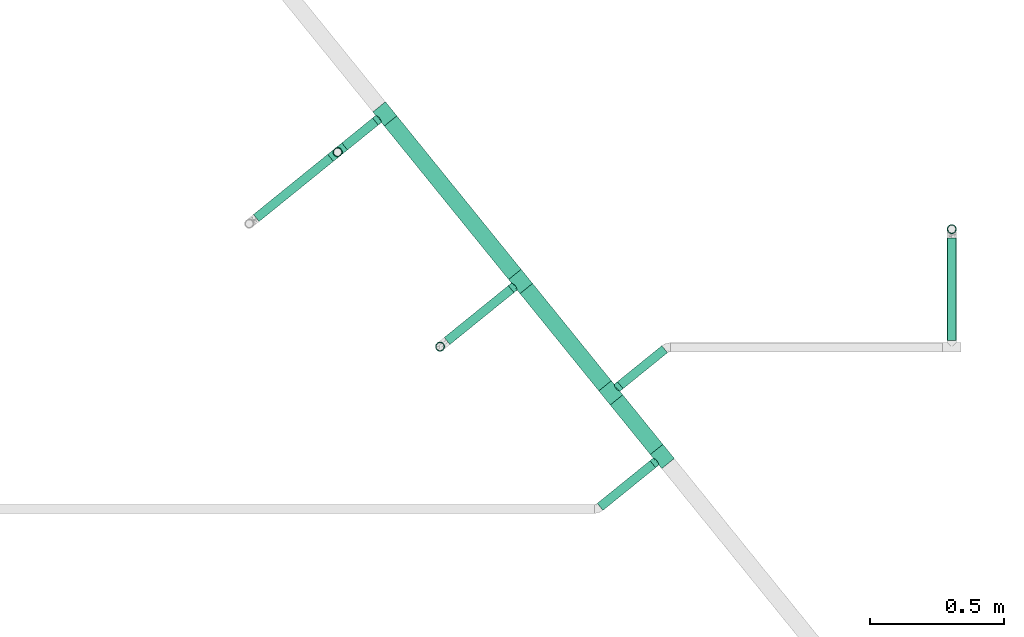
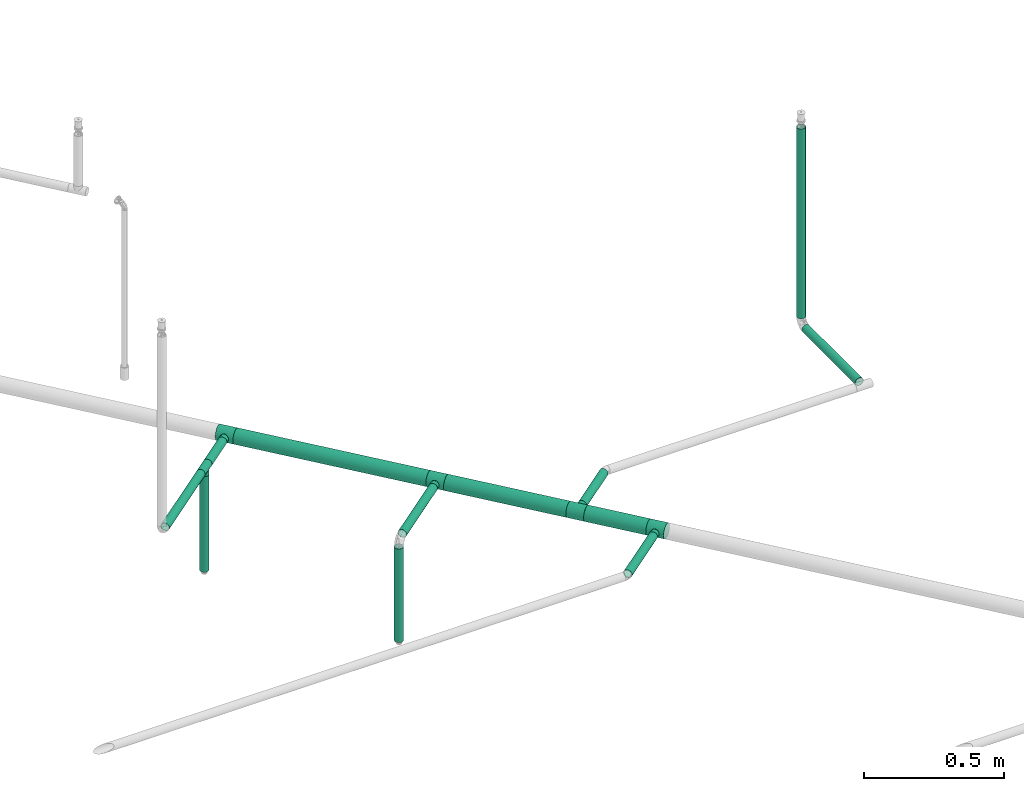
# One storey, part 16 of 94: 12 flow segments, 5 flow fittings.
"""IFC2X3 building model written with IfcOpenShell, lengths in millimetres."""

from ifc_helpers import new_model, entity, si_unit, converted_unit, derived_unit, direction, frame, origin_with_axes, origin_2d_with_axis, place, context, subcontext, project, spatial, hollow_circle, extrude, open_shell, surface_model, source, transform, mapped, type_object, element, save


model = new_model("IFC2X3")

# Units and contexts
model_context = context("Model", 3, precision=0.01, world=frame((0.0, 4.29681676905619e-09, 0.0)), true_north=direction((4.01073788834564e-13, 1.0)))
plan_context = context("Plan", 3, precision=0.01, world=frame((0.0, 4.29681676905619e-09, 0.0)), true_north=direction((4.01073788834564e-13, 1.0)))
body_context = subcontext(model_context, "Body", "Model", "MODEL_VIEW")
ifc_project = project(units=[converted_unit("PLANEANGLEUNIT", "DEGREE", entity("IfcPositiveLengthMeasure", 0.0174532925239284), si_unit("PLANEANGLEUNIT", "RADIAN"), dimensions=[0, 0, 0, 0, 0, 0, 0]), si_unit("AREAUNIT", "SQUARE_METRE"), si_unit("LENGTHUNIT", "METRE", prefix="MILLI"), si_unit("MASSUNIT", "GRAM", prefix="KILO"), si_unit("POWERUNIT", "WATT"), si_unit("PRESSUREUNIT", "PASCAL", prefix="KILO"), si_unit("FORCEUNIT", "NEWTON", prefix="KILO"), si_unit("ELECTRICVOLTAGEUNIT", "VOLT"), si_unit("ELECTRICCURRENTUNIT", "AMPERE"), si_unit("THERMODYNAMICTEMPERATUREUNIT", "DEGREE_CELSIUS"), si_unit("TIMEUNIT", "SECOND"), si_unit("VOLUMEUNIT", "CUBIC_METRE"), derived_unit("LINEARVELOCITYUNIT", [(si_unit("LENGTHUNIT", "METRE"), 1), (si_unit("TIMEUNIT", "SECOND"), -1)]), derived_unit("VOLUMETRICFLOWRATEUNIT", [(si_unit("VOLUMEUNIT", "CUBIC_METRE"), 1), (si_unit("TIMEUNIT", "SECOND"), -1)]), derived_unit("THERMALTRANSMITTANCEUNIT", [(si_unit("POWERUNIT", "WATT"), 1), (si_unit("THERMODYNAMICTEMPERATUREUNIT", "KELVIN"), -1), (si_unit("AREAUNIT", "SQUARE_METRE"), -1)]), derived_unit("SOUNDPRESSUREUNIT", [(si_unit("PRESSUREUNIT", "PASCAL"), 1)])], contexts=[model_context, plan_context])

# Site, building, storey
site_placement = place(None, frame((0.0, -4.29681676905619e-09, 0.0), z_axis=(0.0, 0.0, 1.0), x_axis=(1.0, 0.0, 0.0)))
site = spatial("IfcSite", under=ifc_project, at=site_placement, CompositionType="ELEMENT")
building_placement = place(site_placement, frame((0.0, 4.29681676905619e-09, 0.0), z_axis=(0.0, 0.0, 1.0), x_axis=(1.0, 0.0, 0.0)))
building = spatial("IfcBuilding", under=site, at=building_placement, Name="mc-building", CompositionType="ELEMENT")
storey_placement = place(building_placement, frame((0.0, 0.0, 210900.0), z_axis=(0.0, 0.0, 1.0), x_axis=(1.0, 0.0, 0.0)))
storey = spatial("IfcBuildingStorey", under=building, at=storey_placement, Name="Nivå F", CompositionType="ELEMENT", Elevation=210900.0)

# Flow fittings
pipe_fitting_type = type_object("IfcPipeFittingType", Name="magi_pipe_fe_tee_centric_90_NOR", PredefinedType="JUNCTION")
shared_shape_1 = source(origin_with_axes(), body_context, "Body", "SurfaceModel", [
    surface_model("IfcShellBasedSurfaceModel", [(-33.8, 4.37404, -16.32415), (-33.8, 0.0, -16.9), (-33.8, 16.32415, -4.37404), (-33.8, 8.45, -14.63583), (-33.8, 11.9501, -11.9501), (-33.8, 14.63583, -8.45), (-33.8, -16.9, 0.0), (-33.8, -11.9501, -11.9501), (-33.8, -14.63583, -8.45), (-33.8, -8.45, -14.63583), (-33.8, -4.37404, -16.32415), (-33.8, -16.32415, -4.37404), (-33.8, 14.63583, 8.45), (-33.8, 16.32415, 4.37404), (-33.8, -8.45, 14.63583), (-33.8, 8.45, 14.63583), (-33.8, 11.9501, 11.9501), (-33.8, 4.37404, 16.32415), (-33.8, 0.0, 16.9), (-33.8, -11.9501, 11.9501), (-33.8, -14.63583, 8.45), (-33.8, -16.32415, 4.37404), (-33.8, -4.37404, 16.32415), (-33.8, 16.9, 0.0), (33.8, 4.37404, -16.32415), (33.8, -16.9, 0.0), (33.8, 0.0, -16.9), (33.8, 14.63583, -8.45), (33.8, 8.45, -14.63583), (33.8, 16.32415, -4.37404), (33.8, 11.9501, -11.9501), (33.8, -16.32415, 4.37404), (33.8, -8.45, -14.63583), (33.8, -4.37404, -16.32415), (33.8, -11.9501, -11.9501), (33.8, -14.63583, -8.45), (33.8, -16.32415, -4.37404), (33.8, 16.32415, 4.37404), (33.8, 8.45, 14.63583), (33.8, 14.63583, 8.45), (33.8, 11.9501, 11.9501), (33.8, -8.45, 14.63583), (33.8, 4.37404, 16.32415), (33.8, -14.63583, 8.45), (33.8, -11.9501, 11.9501), (33.8, 0.0, 16.9), (33.8, -4.37404, 16.32415), (33.8, 16.9, 0.0), (16.28698, -16.28698, 4.51047), (16.9, -16.9, 0.0), (14.62704, -14.62704, 8.4652), (9.47213, -9.47213, 13.99602), (12.26343, -12.26343, 11.62834), (-16.9, -16.9, 0.0), (-16.28698, -16.28698, 4.51047), (-14.62704, -14.62704, 8.4652), (-12.26343, -12.26343, 11.62834), (-9.47213, -9.47213, 13.99602), (-6.42894, -6.42894, 15.62942), (6.42894, -6.42894, 15.62942), (3.24522, -3.24522, 16.58549), (0.0, 0.0, 16.9), (-3.24522, -3.24522, 16.58549), (3.24522, -3.24522, -16.58549), (0.0, 0.0, -16.9), (-3.24522, -3.24522, -16.58549), (-6.42894, -6.42894, -15.62942), (6.42894, -6.42894, -15.62942), (9.47213, -9.47213, -13.99602), (12.26343, -12.26343, -11.62834), (14.62704, -14.62704, -8.4652), (16.28698, -16.28698, -4.51047), (-9.47213, -9.47213, -13.99602), (-12.26343, -12.26343, -11.62834), (-16.28698, -16.28698, -4.51047), (-14.62704, -14.62704, -8.4652), (4.37404, -25.35, -16.32415), (-16.9, -25.35, 0.0), (0.0, -25.35, -16.9), (14.63583, -25.35, -8.45), (8.45, -25.35, -14.63583), (16.32415, -25.35, -4.37404), (11.9501, -25.35, -11.9501), (-11.9501, -25.35, -11.9501), (-8.45, -25.35, -14.63583), (-4.37404, -25.35, -16.32415), (-14.63583, -25.35, -8.45), (-16.32415, -25.35, -4.37404), (16.9, -25.35, 0.0), (8.45, -25.35, 14.63583), (16.32415, -25.35, 4.37404), (14.63583, -25.35, 8.45), (-8.45, -25.35, 14.63583), (11.9501, -25.35, 11.9501), (4.37404, -25.35, 16.32415), (-16.32415, -25.35, 4.37404), (-11.9501, -25.35, 11.9501), (-14.63583, -25.35, 8.45), (0.0, -25.35, 16.9), (-4.37404, -25.35, 16.32415)], [open_shell([[[0, 1, 2]], [[3, 0, 4]], [[0, 2, 5]], [[4, 0, 5]], [[6, 2, 1]], [[7, 8, 9]], [[1, 10, 9]], [[11, 6, 8]], [[1, 9, 8]], [[1, 8, 6]], [[6, 12, 2]], [[12, 13, 2]], [[14, 12, 6]], [[12, 14, 15]], [[16, 12, 15]], [[17, 15, 18]], [[19, 14, 20]], [[21, 20, 14]], [[22, 18, 14]], [[14, 6, 21]], [[14, 18, 15]], [[23, 2, 13]], [[24, 25, 26]], [[27, 24, 28]], [[27, 29, 24]], [[27, 28, 30]], [[31, 25, 24]], [[26, 32, 33]], [[26, 34, 32]], [[35, 25, 36]], [[35, 34, 26]], [[25, 35, 26]], [[24, 29, 31]], [[29, 37, 38]], [[38, 37, 39]], [[38, 31, 29]], [[38, 39, 40]], [[41, 38, 42]], [[43, 41, 44]], [[41, 43, 31]], [[41, 45, 46]], [[41, 31, 38]], [[42, 45, 41]], [[29, 47, 37]], [[31, 43, 48]], [[25, 31, 49]], [[49, 31, 48]], [[43, 50, 48]], [[44, 41, 51]], [[50, 43, 52]], [[51, 52, 44]], [[52, 43, 44]], [[53, 54, 21]], [[53, 21, 6]], [[21, 54, 20]], [[54, 55, 20]], [[56, 57, 19]], [[19, 20, 56]], [[19, 57, 14]], [[56, 20, 55]], [[14, 57, 58]], [[51, 41, 59]], [[60, 45, 61]], [[59, 46, 60]], [[46, 59, 41]], [[60, 46, 45]], [[61, 45, 42]], [[39, 37, 13]], [[16, 38, 40]], [[12, 40, 39]], [[42, 38, 15]], [[23, 37, 47]], [[62, 61, 18]], [[62, 22, 58]], [[22, 62, 18]], [[58, 22, 14]], [[61, 17, 18]], [[42, 17, 61]], [[15, 17, 42]], [[15, 38, 16]], [[12, 16, 40]], [[13, 12, 39]], [[37, 23, 13]], [[5, 27, 30]], [[23, 47, 29]], [[30, 28, 3]], [[27, 2, 29]], [[26, 33, 63]], [[26, 64, 24]], [[64, 26, 63]], [[28, 24, 0]], [[64, 0, 24]], [[4, 30, 3]], [[2, 27, 5]], [[5, 30, 4]], [[2, 23, 29]], [[65, 66, 10]], [[1, 0, 64]], [[1, 65, 10]], [[66, 9, 10]], [[0, 3, 28]], [[1, 64, 65]], [[63, 33, 67]], [[32, 34, 68]], [[69, 68, 34]], [[35, 70, 69]], [[69, 34, 35]], [[32, 68, 67]], [[36, 25, 49]], [[36, 71, 35]], [[71, 36, 49]], [[35, 71, 70]], [[72, 9, 66]], [[72, 7, 9]], [[7, 72, 73]], [[7, 73, 8]], [[74, 53, 11]], [[75, 74, 8]], [[74, 11, 8]], [[11, 53, 6]], [[75, 8, 73]], [[32, 67, 33]], [[76, 77, 78]], [[79, 76, 80]], [[79, 81, 76]], [[79, 80, 82]], [[77, 76, 81]], [[78, 83, 84]], [[84, 85, 78]], [[86, 77, 87]], [[83, 78, 86]], [[77, 86, 78]], [[81, 88, 77]], [[89, 88, 90]], [[89, 90, 91]], [[92, 77, 89]], [[89, 91, 93]], [[92, 89, 94]], [[95, 96, 97]], [[96, 95, 92]], [[92, 98, 99]], [[95, 77, 92]], [[94, 98, 92]], [[89, 77, 88]], [[77, 95, 53]], [[54, 53, 95]], [[97, 96, 56]], [[96, 92, 57]], [[95, 97, 54]], [[58, 92, 99]], [[55, 54, 97]], [[56, 55, 97]], [[58, 57, 92]], [[98, 61, 62]], [[58, 99, 62]], [[56, 96, 57]], [[62, 99, 98]], [[94, 60, 98]], [[89, 59, 94]], [[91, 90, 48]], [[52, 93, 91]], [[93, 51, 89]], [[49, 90, 88]], [[59, 60, 94]], [[51, 59, 89]], [[49, 48, 90]], [[50, 52, 91]], [[48, 50, 91]], [[51, 93, 52]], [[98, 60, 61]], [[88, 81, 49]], [[71, 49, 81]], [[79, 82, 69]], [[82, 80, 68]], [[81, 79, 71]], [[67, 80, 76]], [[70, 71, 79]], [[69, 70, 79]], [[67, 68, 80]], [[78, 64, 63]], [[67, 76, 63]], [[69, 82, 68]], [[63, 76, 78]], [[85, 65, 78]], [[84, 66, 85]], [[86, 87, 74]], [[86, 73, 83]], [[72, 84, 83]], [[53, 87, 77]], [[66, 65, 85]], [[72, 66, 84]], [[53, 74, 87]], [[75, 73, 86]], [[74, 75, 86]], [[72, 83, 73]], [[78, 65, 64]]])]),
])
flow_fitting_placement = place(storey_placement, frame((726826.19319, 441839.19005, 3500.0), z_axis=(0.629320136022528, -0.777146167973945, 0.0), x_axis=(0.777146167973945, 0.629320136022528, 0.0)))
element("IfcFlowFitting", 1, at=flow_fitting_placement, inside=storey, type_object=pipe_fitting_type, Name="magi_pipe_fe_tee_centric_90_NOR", context=body_context, shape_type="MappedRepresentation", body=[
    mapped(shared_shape_1, transform((0.0, 0.0, 0.0), scale=1.0)),
])
shared_shape_2 = source(origin_with_axes(), body_context, "Body", "SurfaceModel", [
    surface_model("IfcShellBasedSurfaceModel", [(-33.8, 15.1, -26.15397), (-33.8, 7.81634, -29.17096), (-33.8, 0.0, -30.2), (-33.8, 29.17096, -7.81634), (-33.8, 26.15397, -15.1), (-33.8, 21.35462, -21.35462), (-33.8, 30.2, 0.0), (-33.8, -30.2, 0.0), (-33.8, -15.1, -26.15397), (-33.8, -21.35462, -21.35462), (-33.8, -7.81634, -29.17096), (-33.8, -26.15397, -15.1), (-33.8, -29.17096, -7.81634), (-33.8, 26.15397, 15.1), (-33.8, 29.17096, 7.81634), (-33.8, 15.1, 26.15397), (-33.8, -21.35462, 21.35462), (-33.8, 21.35462, 21.35462), (-33.8, 7.81634, 29.17096), (-33.8, -29.17096, 7.81634), (-33.8, -26.15397, 15.1), (-33.8, -7.81634, 29.17096), (-33.8, 0.0, 30.2), (-33.8, -15.1, 26.15397), (33.8, 29.17096, -7.81634), (33.8, 0.0, -30.2), (33.8, 7.81634, -29.17096), (33.8, 21.35462, -21.35462), (33.8, 15.1, -26.15397), (33.8, 26.15397, -15.1), (33.8, -30.2, 0.0), (33.8, -7.81634, -29.17096), (33.8, -21.35462, -21.35462), (33.8, -15.1, -26.15397), (33.8, -29.17096, -7.81634), (33.8, -26.15397, -15.1), (33.8, 30.2, 0.0), (33.8, 29.17096, 7.81634), (33.8, 26.15397, 15.1), (33.8, -29.17096, 7.81634), (33.8, 15.1, 26.15397), (33.8, 7.81634, 29.17096), (33.8, 21.35462, 21.35462), (33.8, -21.35462, 21.35462), (33.8, -26.15397, 15.1), (33.8, -15.1, 26.15397), (33.8, 0.0, 30.2), (33.8, -7.81634, 29.17096), (33.8, -29.68548, 3.90817), (15.846, -29.62306, 5.87488), (16.373, -29.91153, 2.93744), (12.91037, -28.16217, 10.90561), (2.99213, -25.2068, 16.63301), (16.9, -30.2, 0.0), (33.8, -27.66246, 11.45817), (8.50854, -26.43531, 14.60187), (-8.51006, -26.43579, 14.60099), (-33.8, -27.66246, 11.45817), (-12.91447, -28.16405, 10.90075), (-15.84655, -29.62335, 5.87341), (-33.8, -29.68548, 3.90817), (-16.37327, -29.91168, 2.93671), (-16.9, -30.2, 0.0), (-2.99705, -25.20739, 16.63213), (2.99213, -25.2068, -16.63301), (-16.37327, -29.91168, -2.93671), (8.50854, -26.43531, -14.60187), (33.8, -27.66246, -11.45817), (16.373, -29.91153, -2.93744), (-33.8, -29.68548, -3.90817), (-15.84655, -29.62335, -5.87341), (15.846, -29.62306, -5.87488), (12.91037, -28.16217, -10.90561), (33.8, -29.68548, -3.90817), (-2.99705, -25.20739, -16.63213), (-8.51006, -26.43579, -14.60099), (-12.91447, -28.16405, -10.90075), (-33.8, -27.66246, -11.45817), (4.37404, -45.3, -16.32415), (-16.9, -45.3, 0.0), (0.0, -45.3, -16.9), (14.63583, -45.3, -8.45), (8.45, -45.3, -14.63583), (16.32415, -45.3, -4.37404), (11.9501, -45.3, -11.9501), (-11.9501, -45.3, -11.9501), (-8.45, -45.3, -14.63583), (-4.37404, -45.3, -16.32415), (-14.63583, -45.3, -8.45), (-16.32415, -45.3, -4.37404), (16.9, -45.3, 0.0), (8.45, -45.3, 14.63583), (16.32415, -45.3, 4.37404), (14.63583, -45.3, 8.45), (-8.45, -45.3, 14.63583), (11.9501, -45.3, 11.9501), (4.37404, -45.3, 16.32415), (-16.32415, -45.3, 4.37404), (-11.9501, -45.3, 11.9501), (-14.63583, -45.3, 8.45), (0.0, -45.3, 16.9), (-4.37404, -45.3, 16.32415), (-5.75355, -25.82159, 15.61656), (-0.00246, -25.20709, 16.63257), (5.75034, -25.82105, 15.61744), (5.75034, -25.82105, -15.61744), (-0.00246, -25.20709, -16.63257), (-5.75355, -25.82159, -15.61656)], [open_shell([[[0, 1, 2]], [[3, 0, 2]], [[0, 3, 4]], [[5, 0, 4]], [[6, 2, 7]], [[8, 9, 10]], [[9, 2, 10]], [[11, 12, 9]], [[7, 9, 12]], [[9, 7, 2]], [[6, 3, 2]], [[13, 14, 6]], [[7, 15, 13]], [[7, 16, 15]], [[17, 13, 15]], [[18, 15, 16]], [[19, 20, 7]], [[7, 20, 16]], [[21, 22, 23]], [[16, 23, 22]], [[16, 22, 18]], [[7, 13, 6]], [[24, 25, 26]], [[27, 26, 28]], [[29, 24, 26]], [[29, 26, 27]], [[25, 24, 30]], [[31, 32, 33]], [[32, 31, 34]], [[32, 34, 35]], [[34, 31, 30]], [[31, 25, 30]], [[24, 36, 30]], [[36, 37, 38]], [[39, 36, 38]], [[40, 41, 38]], [[40, 38, 42]], [[43, 38, 41]], [[39, 43, 44]], [[39, 38, 43]], [[45, 46, 47]], [[46, 45, 43]], [[41, 46, 43]], [[36, 39, 30]], [[48, 39, 49]], [[30, 48, 50]], [[39, 51, 49]], [[44, 43, 52]], [[30, 50, 53]], [[51, 54, 55]], [[52, 55, 44]], [[48, 49, 50]], [[43, 16, 52]], [[55, 54, 44]], [[56, 57, 58]], [[59, 60, 61]], [[62, 61, 7]], [[59, 58, 19]], [[56, 63, 20]], [[51, 39, 54]], [[20, 57, 56]], [[20, 63, 16]], [[58, 57, 19]], [[63, 52, 16]], [[7, 61, 60]], [[59, 19, 60]], [[43, 23, 16]], [[22, 47, 46]], [[21, 45, 47]], [[18, 46, 41]], [[38, 37, 14]], [[17, 40, 42]], [[13, 42, 38]], [[41, 40, 15]], [[6, 37, 36]], [[23, 45, 21]], [[21, 47, 22]], [[18, 22, 46]], [[41, 15, 18]], [[15, 40, 17]], [[13, 17, 42]], [[14, 13, 38]], [[37, 6, 14]], [[45, 23, 43]], [[4, 24, 29]], [[3, 36, 24]], [[5, 29, 27]], [[25, 31, 10]], [[1, 28, 26]], [[2, 26, 25]], [[27, 28, 0]], [[8, 31, 33]], [[6, 36, 3]], [[3, 24, 4]], [[5, 4, 29]], [[27, 0, 5]], [[0, 28, 1]], [[2, 1, 26]], [[10, 2, 25]], [[31, 8, 10]], [[33, 9, 8]], [[32, 35, 64]], [[7, 65, 62]], [[66, 64, 35]], [[67, 66, 35]], [[32, 64, 9]], [[53, 68, 30]], [[69, 70, 65]], [[71, 72, 34]], [[71, 73, 68]], [[66, 67, 72]], [[34, 72, 67]], [[74, 75, 11]], [[76, 12, 77]], [[11, 9, 74]], [[76, 77, 75]], [[74, 9, 64]], [[76, 70, 12]], [[71, 34, 73]], [[70, 69, 12]], [[65, 7, 69]], [[30, 68, 73]], [[77, 11, 75]], [[32, 9, 33]], [[78, 79, 80]], [[81, 78, 82]], [[81, 83, 78]], [[81, 82, 84]], [[79, 78, 83]], [[80, 85, 86]], [[86, 87, 80]], [[88, 79, 89]], [[85, 80, 88]], [[79, 88, 80]], [[83, 90, 79]], [[91, 90, 92]], [[91, 92, 93]], [[94, 79, 91]], [[91, 93, 95]], [[94, 91, 96]], [[97, 98, 99]], [[98, 97, 94]], [[94, 100, 101]], [[97, 79, 94]], [[96, 100, 94]], [[91, 79, 90]], [[97, 61, 79]], [[58, 99, 98]], [[97, 99, 59]], [[98, 94, 56]], [[61, 62, 79]], [[59, 99, 58]], [[101, 63, 102]], [[56, 58, 98]], [[100, 52, 103]], [[91, 104, 96]], [[100, 96, 52]], [[50, 49, 92]], [[50, 90, 53]], [[104, 91, 55]], [[102, 94, 101]], [[102, 56, 94]], [[100, 63, 101]], [[97, 59, 61]], [[55, 91, 95]], [[95, 51, 55]], [[52, 96, 104]], [[92, 49, 93]], [[90, 50, 92]], [[93, 49, 51]], [[93, 51, 95]], [[103, 63, 100]], [[83, 68, 90]], [[72, 81, 84]], [[83, 81, 71]], [[84, 82, 66]], [[68, 53, 90]], [[71, 81, 72]], [[78, 64, 105]], [[66, 72, 84]], [[80, 74, 106]], [[86, 107, 87]], [[65, 70, 89]], [[105, 82, 78]], [[105, 66, 82]], [[75, 86, 85]], [[83, 71, 68]], [[70, 88, 89]], [[65, 79, 62]], [[85, 88, 76]], [[80, 64, 78]], [[87, 107, 74]], [[74, 80, 87]], [[75, 107, 86]], [[75, 85, 76]], [[76, 88, 70]], [[79, 65, 89]], [[106, 64, 80]]])]),
])
for number, where, z_axis, x_axis, name in (
    (2, (727002.26502, 441981.7702, 3500.0), (0.0, 0.0, -1.0), (-0.629320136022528, 0.777146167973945, 0.0), "magi_pipe_fe_tee_centric_90_NOR"),
    (3, (727507.75807, 441357.53827, 3500.0), (0.0, 0.0, -1.0), (-0.629320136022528, 0.777146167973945, 0.0), "magi_pipe_fe_tee_centric_90_NOR"),
    (4, (727843.69863, 440942.68623, 3500.0), (0.0, 0.0, 1.0), (-0.629320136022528, 0.777146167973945, 0.0), "magi_pipe_fe_tee_centric_90_NOR"),
    (5, (728035.62442, 440705.67762, 3500.0), (0.0, 0.0, -1.0), (-0.629320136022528, 0.777146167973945, 0.0), "magi_pipe_fe_tee_centric_90_NOR"),
):
    element("IfcFlowFitting", number, at=place(storey_placement, frame(where, z_axis=z_axis, x_axis=x_axis)), inside=storey, type_object=pipe_fitting_type, Name=name, context=body_context, shape_type="MappedRepresentation", body=[
        mapped(shared_shape_2, transform((0.0, 0.0, 0.0), scale=1.0)),
    ])

# Flow segments
pipe_segment_type = type_object("IfcPipeSegmentType", Name="Stålrør normaltykke", PredefinedType="RIGIDSEGMENT")
shared_shape_3 = source(origin_with_axes(), body_context, "Body", "SweptSolid", [
    extrude(hollow_circle(Radius=16.9, WallThickness=2.0, at=origin_2d_with_axis()), frame((0.0, 0.0, 0.0), z_axis=(1.0, 0.0, 0.0), x_axis=(0.0, 1.0, 0.0)), (0.0, 0.0, 1.0), 148.2),
])
flow_segment_1_placement = place(storey_placement, frame((726967.0603, 441953.26199, 3500.0), z_axis=(0.0, 0.0, 1.0), x_axis=(-0.777146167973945, -0.629320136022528, 0.0)))
element("IfcFlowSegment", 6, at=flow_segment_1_placement, inside=storey, type_object=pipe_segment_type, Name="Stålrør normaltykke", context=body_context, shape_type="MappedRepresentation", body=[
    mapped(shared_shape_3, transform((0.0, 0.0, 0.0), scale=1.0)),
])
shared_shape_4 = source(origin_with_axes(), body_context, "Body", "SweptSolid", [
    extrude(hollow_circle(Radius=16.9, WallThickness=2.0, at=origin_2d_with_axis()), frame((0.0, 0.0, 0.0), z_axis=(1.0, 0.0, 0.0), x_axis=(0.0, 1.0, 0.0)), (0.0, 0.0, 1.0), 356.0),
])
flow_segment_2_placement = place(storey_placement, frame((726799.92565, 441817.91902, 3500.0), z_axis=(0.0, 0.0, 1.0), x_axis=(-0.777146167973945, -0.629320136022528, 0.0)))
element("IfcFlowSegment", 7, at=flow_segment_2_placement, inside=storey, type_object=pipe_segment_type, Name="Stålrør normaltykke", context=body_context, shape_type="MappedRepresentation", body=[
    mapped(shared_shape_4, transform((0.0, 0.0, 0.0), scale=1.0)),
])
shared_shape_5 = source(origin_with_axes(), body_context, "Body", "SweptSolid", [
    extrude(hollow_circle(Radius=16.9, WallThickness=2.0, at=origin_2d_with_axis()), frame((0.0, 0.0, 0.0), z_axis=(1.0, 0.0, 0.0), x_axis=(0.0, 1.0, 0.0)), (0.0, 0.0, 1.0), 306.9),
])
flow_segment_3_placement = place(storey_placement, frame((727472.55336, 441329.03006, 3500.0), z_axis=(0.0, 0.0, 1.0), x_axis=(-0.777146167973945, -0.629320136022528, 0.0)))
element("IfcFlowSegment", 8, at=flow_segment_3_placement, inside=storey, type_object=pipe_segment_type, Name="Stålrør normaltykke", context=body_context, shape_type="MappedRepresentation", body=[
    mapped(shared_shape_5, transform((0.0, 0.0, 0.0), scale=1.0)),
])
shared_shape_6 = source(origin_with_axes(), body_context, "Body", "SweptSolid", [
    extrude(hollow_circle(Radius=30.1, WallThickness=2.0, at=origin_2d_with_axis()), frame((0.0, 0.0, 0.0), z_axis=(1.0, 0.0, 0.0), x_axis=(0.0, 1.0, 0.0)), (0.0, 0.0, 1.0), 735.6),
])
flow_segment_4_placement = place(storey_placement, frame((727023.53604, 441955.50267, 3500.0), z_axis=(0.0, 0.0, 1.0), x_axis=(0.629320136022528, -0.777146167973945, 0.0)))
element("IfcFlowSegment", 9, at=flow_segment_4_placement, inside=storey, type_object=pipe_segment_type, Name="Stålrør normaltykke", context=body_context, shape_type="MappedRepresentation", body=[
    mapped(shared_shape_6, transform((0.0, 0.0, 0.0), scale=1.0)),
])
shared_shape_7 = source(origin_with_axes(), body_context, "Body", "SweptSolid", [
    extrude(hollow_circle(Radius=16.9, WallThickness=2.0, at=origin_2d_with_axis()), frame((0.0, 0.0, 0.0), z_axis=(1.0, 0.0, 0.0), x_axis=(0.0, 1.0, 0.0)), (0.0, 0.0, 1.0), 212.9),
])
flow_segment_5_placement = place(storey_placement, frame((727878.90334, 440971.19445, 3500.0), z_axis=(0.0, 0.0, 1.0), x_axis=(0.777146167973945, 0.629320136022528, 0.0)))
element("IfcFlowSegment", 10, at=flow_segment_5_placement, inside=storey, type_object=pipe_segment_type, Name="Stålrør normaltykke", context=body_context, shape_type="MappedRepresentation", body=[
    mapped(shared_shape_7, transform((0.0, 0.0, 0.0), scale=1.0)),
])
shared_shape_8 = source(origin_with_axes(), body_context, "Body", "SweptSolid", [
    extrude(hollow_circle(Radius=30.1, WallThickness=2.0, at=origin_2d_with_axis()), frame((0.0, 0.0, 0.0), z_axis=(1.0, 0.0, 0.0), x_axis=(0.0, 1.0, 0.0)), (0.0, 0.0, 1.0), 466.2),
])
flow_segment_6_placement = place(storey_placement, frame((727529.0291, 441331.27074, 3500.0), z_axis=(0.0, 0.0, 1.0), x_axis=(0.629320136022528, -0.777146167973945, 0.0)))
element("IfcFlowSegment", 11, at=flow_segment_6_placement, inside=storey, type_object=pipe_segment_type, Name="Stålrør normaltykke", context=body_context, shape_type="MappedRepresentation", body=[
    mapped(shared_shape_8, transform((0.0, 0.0, 0.0), scale=1.0)),
])
shared_shape_9 = source(origin_with_axes(), body_context, "Body", "SweptSolid", [
    extrude(hollow_circle(Radius=16.9, WallThickness=2.0, at=origin_2d_with_axis()), frame((0.0, 0.0, 0.0), z_axis=(1.0, 0.0, 0.0), x_axis=(0.0, 1.0, 0.0)), (0.0, 0.0, 1.0), 380.9),
])
flow_segment_7_placement = place(storey_placement, frame((729113.64461, 441138.04714, 3500.0), z_axis=(0.0, 0.0, 1.0), x_axis=(0.0, 1.0, 0.0)))
element("IfcFlowSegment", 12, at=flow_segment_7_placement, inside=storey, type_object=pipe_segment_type, Name="Stålrør normaltykke", context=body_context, shape_type="MappedRepresentation", body=[
    mapped(shared_shape_9, transform((0.0, 0.0, 0.0), scale=1.0)),
])
shared_shape_10 = source(origin_with_axes(), body_context, "Body", "SweptSolid", [
    extrude(hollow_circle(Radius=16.9, WallThickness=2.0, at=origin_2d_with_axis()), frame((0.0, 0.0, 0.0), z_axis=(1.0, 0.0, 0.0), x_axis=(0.0, 1.0, 0.0)), (0.0, 0.0, 1.0), 252.9),
])
flow_segment_8_placement = place(storey_placement, frame((728000.41971, 440677.1694, 3500.0), z_axis=(0.0, 0.0, 1.0), x_axis=(-0.777146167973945, -0.629320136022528, 0.0)))
element("IfcFlowSegment", 13, at=flow_segment_8_placement, inside=storey, type_object=pipe_segment_type, Name="Stålrør normaltykke", context=body_context, shape_type="MappedRepresentation", body=[
    mapped(shared_shape_10, transform((0.0, 0.0, 0.0), scale=1.0)),
])
shared_shape_11 = source(origin_with_axes(), body_context, "Body", "SweptSolid", [
    extrude(hollow_circle(Radius=30.1, WallThickness=2.0, at=origin_2d_with_axis()), frame((0.0, 0.0, 0.0), z_axis=(1.0, 0.0, 0.0), x_axis=(0.0, 1.0, 0.0)), (0.0, 0.0, 1.0), 237.4),
])
flow_segment_9_placement = place(storey_placement, frame((727864.96965, 440916.4187, 3500.0), z_axis=(0.0, 0.0, 1.0), x_axis=(0.629320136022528, -0.777146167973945, 0.0)))
element("IfcFlowSegment", 14, at=flow_segment_9_placement, inside=storey, type_object=pipe_segment_type, Name="Stålrør normaltykke", context=body_context, shape_type="MappedRepresentation", body=[
    mapped(shared_shape_11, transform((0.0, 0.0, 0.0), scale=1.0)),
])
shared_shape_12 = source(origin_with_axes(), body_context, "Body", "SweptSolid", [
    extrude(hollow_circle(Radius=16.9, WallThickness=2.0, at=origin_2d_with_axis()), frame((0.0, 0.0, 0.0), z_axis=(1.0, 0.0, 0.0), x_axis=(0.0, 1.0, 0.0)), (0.0, 0.0, 1.0), 823.8),
])
flow_segment_10_placement = place(storey_placement, frame((729113.64461, 441552.69714, 3533.79999999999), z_axis=(-0.000893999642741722, -0.99999960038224, 0.0), x_axis=(0.0, 0.0, 1.0)))
element("IfcFlowSegment", 15, at=flow_segment_10_placement, inside=storey, type_object=pipe_segment_type, Name="Stålrør normaltykke", context=body_context, shape_type="MappedRepresentation", body=[
    mapped(shared_shape_12, transform((0.0, 0.0, 0.0), scale=1.0, scale2=1.0, scale3=1.0, uniform=False)),
])
shared_shape_13 = source(origin_with_axes(), body_context, "Body", "SweptSolid", [
    extrude(hollow_circle(Radius=16.9, WallThickness=2.0, at=origin_2d_with_axis()), frame((0.0, 0.0, 0.0), z_axis=(1.0, 0.0, 0.0), x_axis=(0.0, 1.0, 0.0)), (0.0, 0.0, 1.0), 415.3),
])
flow_segment_11_placement = place(storey_placement, frame((726826.19319, 441839.19005, 3474.64999999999), z_axis=(-0.000893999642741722, -0.99999960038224, 0.0), x_axis=(0.0, 0.0, -1.0)))
element("IfcFlowSegment", 16, at=flow_segment_11_placement, inside=storey, type_object=pipe_segment_type, Name="Stålrør normaltykke", context=body_context, shape_type="MappedRepresentation", body=[
    mapped(shared_shape_13, transform((0.0, 0.0, 0.0), scale=1.0)),
])
shared_shape_14 = source(origin_with_axes(), body_context, "Body", "SweptSolid", [
    extrude(hollow_circle(Radius=16.9, WallThickness=2.0, at=origin_2d_with_axis()), frame((0.0, 0.0, 0.0), z_axis=(1.0, 0.0, 0.0), x_axis=(0.0, 1.0, 0.0)), (0.0, 0.0, 1.0), 406.8),
])
flow_segment_12_placement = place(storey_placement, frame((727207.79471, 441114.63274, 3466.20000000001), z_axis=(-0.000893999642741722, -0.99999960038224, 0.0), x_axis=(0.0, 0.0, -1.0)))
element("IfcFlowSegment", 17, at=flow_segment_12_placement, inside=storey, type_object=pipe_segment_type, Name="Stålrør normaltykke", context=body_context, shape_type="MappedRepresentation", body=[
    mapped(shared_shape_14, transform((0.0, 0.0, 0.0), scale=1.0)),
])

save(model, "model.ifc")
